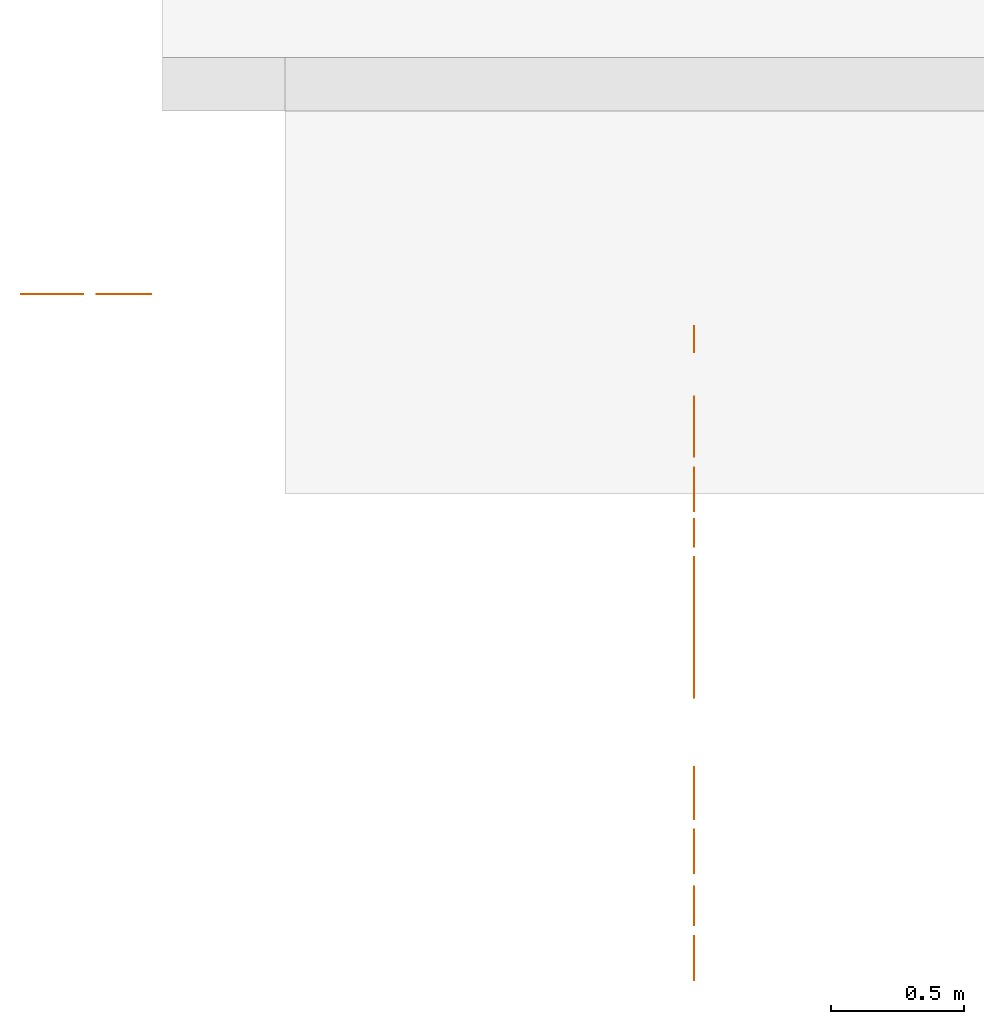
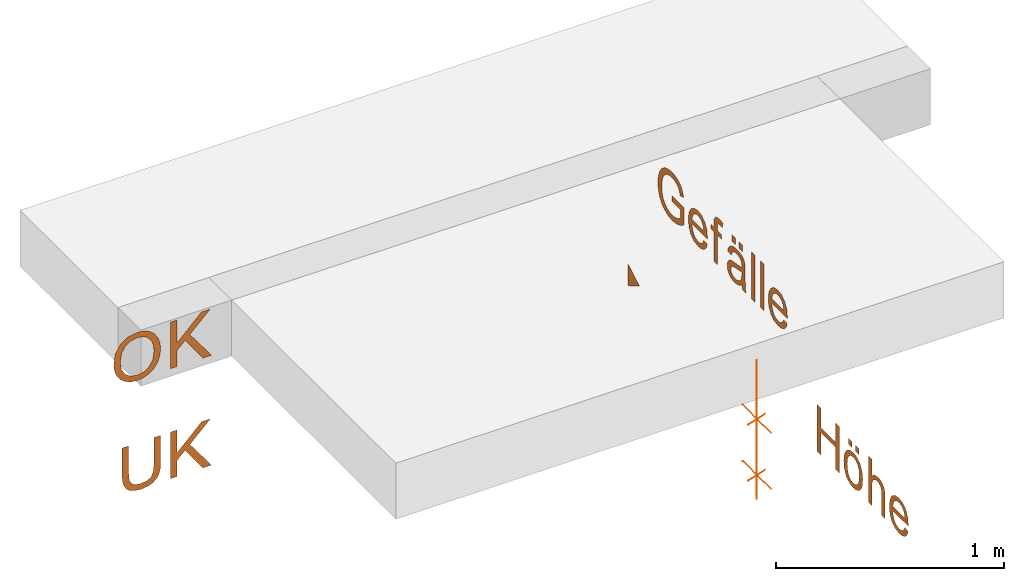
# One storey, part 2 of 2: 6 proxies, 6 elements without a shape of their own.
"""IFC4 building model written with IfcOpenShell, lengths in metres."""

from ifc_helpers import new_model, entity, si_unit, converted_unit, derived_unit, frame, origin, origin_with_axes, place, context, subcontext, project, spatial, open_shell, surface_model, source, transform, mapped, element, aggregate, save


model = new_model("IFC4")

# Units and contexts
model_context = context("Model", 3, precision=1e-05, world=origin())
body_context = subcontext(model_context, "Body", "Model", "MODEL_VIEW")
ifc_project = project(units=[si_unit("LENGTHUNIT", "METRE"), si_unit("AREAUNIT", "SQUARE_METRE"), si_unit("VOLUMEUNIT", "CUBIC_METRE"), si_unit("MASSUNIT", "GRAM", prefix="KILO"), converted_unit("PLANEANGLEUNIT", "DEGREE", entity("IfcPlaneAngleMeasure", 0.0174532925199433), si_unit("PLANEANGLEUNIT", "RADIAN"), dimensions=[0, 0, 0, 0, 0, 0, 0]), derived_unit("THERMALTRANSMITTANCEUNIT", [(si_unit("POWERUNIT", "WATT"), 1), (si_unit("THERMODYNAMICTEMPERATUREUNIT", "KELVIN"), -1), (si_unit("LENGTHUNIT", "METRE"), -2)]), derived_unit("VOLUMETRICFLOWRATEUNIT", [(si_unit("LENGTHUNIT", "METRE"), 3), (converted_unit("TIMEUNIT", "hour", entity("IfcTimeMeasure", 3600.0), si_unit("TIMEUNIT", "SECOND"), dimensions=[0, 0, 1, 0, 0, 0, 0]), -1), (si_unit("LENGTHUNIT", "METRE"), -1)])], contexts=[model_context])

# Site, building, storey
site_placement = place(None, origin())
site = spatial("IfcSite", under=ifc_project, at=site_placement, Name="Liegenschaft", CompositionType="ELEMENT")
building_placement = place(site_placement, origin())
building = spatial("IfcBuilding", under=site, at=building_placement, Name="Gebäude", CompositionType="ELEMENT")
storey_placement = place(building_placement, origin())
storey = spatial("IfcBuildingStorey", under=building, at=storey_placement, Name="Geschoss 01", CompositionType="ELEMENT", Elevation=0.0)

# Assembly, proxy
assembly_1_placement = place(storey_placement, origin())
assembly_1 = element("IfcElementAssembly", 1, at=assembly_1_placement, inside=storey, Name="SpatialDim_Group", PredefinedType="NOTDEFINED")
shared_shape_1 = source(origin_with_axes(), body_context, "Axis", "Curve3D", [
    entity("IfcPolyline", [entity("IfcCartesianPoint", [0.247, 0.05, 0.0]), entity("IfcCartesianPoint", [0.397, 0.2, 0.0])]),
    entity("IfcPolyline", [entity("IfcCartesianPoint", [0.322, 0.0, 0.0]), entity("IfcCartesianPoint", [0.322, 0.25, 0.0])]),
    entity("IfcPolyline", [entity("IfcCartesianPoint", [0.547, 0.05, 0.0]), entity("IfcCartesianPoint", [0.697, 0.2, 0.0])]),
    entity("IfcPolyline", [entity("IfcCartesianPoint", [0.622, 0.0, 0.0]), entity("IfcCartesianPoint", [0.622, 0.25, 0.0])]),
    entity("IfcPolyline", [entity("IfcCartesianPoint", [0.0, 0.125, 0.0]), entity("IfcCartesianPoint", [0.747, 0.125, 0.0])]),
])
proxy_1_placement = place(assembly_1_placement, frame((102.1, -2.465, 0.622), z_axis=(1.0, 0.0, 1.22464679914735e-16), x_axis=(1.22464679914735e-16, 0.0, -1.0)))
proxy_1 = element("IfcBuildingElementProxy", 2, at=proxy_1_placement, Name="macro", context=body_context, shape_type="MappedRepresentation", body=[
    mapped(shared_shape_1, transform((0.0, 0.0, 0.0), x_axis=(1.0, 0.0, 0.0), y_axis=(0.0, 1.0, 0.0), z_axis=(0.0, 0.0, 1.0), scale=1.0)),
])
aggregate(assembly_1, [proxy_1])

assembly_2_placement = place(storey_placement, origin())
assembly_2 = element("IfcElementAssembly", 3, at=assembly_2_placement, inside=storey, Name="SpatialDim_Group", PredefinedType="NOTDEFINED")
shared_shape_2 = source(origin_with_axes(), body_context, "Body", "SurfaceModel", [
    surface_model("IfcShellBasedSurfaceModel", [(0.316, 0.0577350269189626, 0.0), (0.216, 0.115470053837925, 0.0), (0.216, 0.0, 0.0)], [open_shell([[[0, 1, 2]]], orient=[[False]])]),
])
proxy_2_placement = place(assembly_2_placement, frame((102.1, -0.9945, 0.329654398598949), z_axis=(-1.0, -1.22464679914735e-16, 1.22464679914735e-16), x_axis=(1.22464679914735e-16, -1.0, 0.0)))
proxy_2 = element("IfcBuildingElementProxy", 4, at=proxy_2_placement, Name="macro", context=body_context, shape_type="MappedRepresentation", body=[
    mapped(shared_shape_2, transform((0.0, 0.0, 0.0), x_axis=(1.0, 0.0, 0.0), y_axis=(0.0, 1.0, 0.0), z_axis=(0.0, 0.0, 1.0), scale=1.0)),
])
aggregate(assembly_2, [proxy_2])

assembly_3_placement = place(storey_placement, origin())
assembly_3 = element("IfcElementAssembly", 5, at=assembly_3_placement, inside=storey, Name="SpatialDim_Group", PredefinedType="NOTDEFINED")
shared_shape_3 = source(origin_with_axes(), body_context, "Body", "SurfaceModel", [
    surface_model("IfcShellBasedSurfaceModel", [(0.627615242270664, 1.011, 0.0), (0.627615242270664, 0.939, 0.0), (0.580615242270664, 0.939, 0.0), (0.571615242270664, 0.951875, 0.0), (0.562615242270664, 0.97, 0.0), (0.556365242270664, 0.9905, 0.0), (0.554615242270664, 1.011, 0.0), (0.557490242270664, 1.035125, 0.0), (0.565615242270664, 1.057, 0.0), (0.579865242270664, 1.076625, 0.0), (0.598615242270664, 1.091, 0.0), (0.624365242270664, 1.0995, 0.0), (0.654615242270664, 1.102, 0.0), (0.680740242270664, 1.09975, 0.0), (0.704615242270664, 1.093, 0.0), (0.718240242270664, 1.08575, 0.0), (0.729615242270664, 1.077, 0.0), (0.740115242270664, 1.065125, 0.0), (0.747615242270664, 1.051, 0.0), (0.752990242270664, 1.03225, 0.0), (0.754615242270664, 1.012, 0.0), (0.752615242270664, 0.993875, 0.0), (0.747615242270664, 0.978, 0.0), (0.740240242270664, 0.96375, 0.0), (0.730615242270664, 0.954, 0.0), (0.717115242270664, 0.94625, 0.0), (0.700615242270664, 0.94, 0.0), (0.708615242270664, 0.91, 0.0), (0.732615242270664, 0.918, 0.0), (0.750615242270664, 0.929, 0.0), (0.764115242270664, 0.94375, 0.0), (0.774615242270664, 0.963, 0.0), (0.781365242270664, 0.986375, 0.0), (0.783615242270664, 1.012, 0.0), (0.779865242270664, 1.047125, 0.0), (0.768615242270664, 1.077, 0.0), (0.748490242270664, 1.10275, 0.0), (0.721615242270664, 1.121, 0.0), (0.688365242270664, 1.13225, 0.0), (0.653615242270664, 1.136, 0.0), (0.618240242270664, 1.13225, 0.0), (0.586615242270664, 1.121, 0.0), (0.560365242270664, 1.1015, 0.0), (0.541615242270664, 1.076, 0.0), (0.529490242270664, 1.044, 0.0), (0.525615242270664, 1.009, 0.0), (0.528365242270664, 0.982125, 0.0), (0.535615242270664, 0.956, 0.0), (0.547490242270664, 0.93025, 0.0), (0.564615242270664, 0.906, 0.0), (0.656615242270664, 0.906, 0.0), (0.656615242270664, 1.011, 0.0)], [open_shell([[[0, 1, 2, 3, 4, 5, 6, 7, 8, 9, 10, 11, 12, 13, 14, 15, 16, 17, 18, 19, 20, 21, 22, 23, 24, 25, 26, 27, 28, 29, 30, 31, 32, 33, 34, 35, 36, 37, 38, 39, 40, 41, 42, 43, 44, 45, 46, 47, 48, 49, 50, 51]]], orient=[[False]])]),
    surface_model("IfcShellBasedSurfaceModel", [(0.587615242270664, 0.733, 0.0), (0.570990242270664, 0.741875, 0.0), (0.559615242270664, 0.753, 0.0), (0.552865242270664, 0.766375, 0.0), (0.550615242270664, 0.782, 0.0), (0.554865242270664, 0.80375, 0.0), (0.566615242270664, 0.821, 0.0), (0.586240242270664, 0.832875, 0.0), (0.612615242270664, 0.838, 0.0), (0.612615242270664, 0.701, 0.0), (0.617365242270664, 0.701, 0.0), (0.620615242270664, 0.701, 0.0), (0.660365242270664, 0.706875, 0.0), (0.689615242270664, 0.724, 0.0), (0.708490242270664, 0.751, 0.0), (0.714615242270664, 0.784, 0.0), (0.708115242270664, 0.818625, 0.0), (0.689615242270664, 0.845, 0.0), (0.658990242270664, 0.863, 0.0), (0.618615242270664, 0.869, 0.0), (0.578865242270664, 0.863125, 0.0), (0.549615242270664, 0.846, 0.0), (0.531615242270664, 0.81775, 0.0), (0.525615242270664, 0.782, 0.0), (0.529365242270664, 0.752625, 0.0), (0.540615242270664, 0.73, 0.0), (0.559115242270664, 0.712625, 0.0), (0.583615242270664, 0.702, 0.0), (0.657240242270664, 0.73675, 0.0), (0.637615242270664, 0.733, 0.0), (0.637615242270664, 0.837, 0.0), (0.659240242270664, 0.831625, 0.0), (0.675615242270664, 0.821, 0.0), (0.686365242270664, 0.804, 0.0), (0.689615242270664, 0.784, 0.0), (0.685115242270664, 0.76225, 0.0), (0.671615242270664, 0.745, 0.0)], [open_shell([[[0, 1, 2, 3, 4, 5, 6, 7, 8, 9, 10, 11, 12, 13, 14, 15, 16, 17, 18, 19, 20, 21, 22, 23, 24, 25, 26, 27], [28, 29, 30, 31, 32, 33, 34, 35, 36]]], orient=[[False, False]])]),
    surface_model("IfcShellBasedSurfaceModel", [(0.529615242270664, 0.646, 0.0), (0.529615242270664, 0.615, 0.0), (0.686615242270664, 0.615, 0.0), (0.686615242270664, 0.58, 0.0), (0.710615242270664, 0.58, 0.0), (0.710615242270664, 0.615, 0.0), (0.727615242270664, 0.615, 0.0), (0.741240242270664, 0.6135, 0.0), (0.749615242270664, 0.609, 0.0), (0.754115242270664, 0.600875, 0.0), (0.755615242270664, 0.589, 0.0), (0.754990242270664, 0.58, 0.0), (0.753615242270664, 0.571, 0.0), (0.780615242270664, 0.566, 0.0), (0.782865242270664, 0.581625, 0.0), (0.783615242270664, 0.595, 0.0), (0.781615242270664, 0.61325, 0.0), (0.776615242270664, 0.627, 0.0), (0.767365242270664, 0.63675, 0.0), (0.756615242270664, 0.642, 0.0), (0.745365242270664, 0.645125, 0.0), (0.729615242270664, 0.646, 0.0), (0.710615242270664, 0.646, 0.0), (0.710615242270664, 0.672, 0.0), (0.686615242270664, 0.672, 0.0), (0.686615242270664, 0.646, 0.0)], [open_shell([[[0, 1, 2, 3, 4, 5, 6, 7, 8, 9, 10, 11, 12, 13, 14, 15, 16, 17, 18, 19, 20, 21, 22, 23, 24, 25]]], orient=[[False]])]),
    surface_model("IfcShellBasedSurfaceModel", [(0.732615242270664, 0.424, 0.0), (0.732615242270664, 0.392, 0.0), (0.766615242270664, 0.392, 0.0), (0.766615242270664, 0.424, 0.0), (0.732615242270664, 0.486, 0.0), (0.732615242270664, 0.454, 0.0), (0.766615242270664, 0.454, 0.0), (0.766615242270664, 0.486, 0.0), (0.539990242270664, 0.39575, 0.0), (0.529615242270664, 0.392, 0.0), (0.529615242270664, 0.361, 0.0), (0.540240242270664, 0.365625, 0.0), (0.551615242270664, 0.368, 0.0), (0.571115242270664, 0.36975, 0.0), (0.605615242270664, 0.37, 0.0), (0.646615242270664, 0.37, 0.0), (0.663990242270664, 0.370625, 0.0), (0.674615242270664, 0.372, 0.0), (0.686615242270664, 0.37575, 0.0), (0.695615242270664, 0.381, 0.0), (0.703365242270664, 0.390125, 0.0), (0.709615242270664, 0.403, 0.0), (0.713615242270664, 0.420125, 0.0), (0.714615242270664, 0.441, 0.0), (0.713115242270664, 0.4635, 0.0), (0.708615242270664, 0.483, 0.0), (0.700240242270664, 0.49875, 0.0), (0.689615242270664, 0.51, 0.0), (0.675615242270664, 0.518875, 0.0), (0.658615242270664, 0.524, 0.0), (0.654615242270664, 0.493, 0.0), (0.671865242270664, 0.486125, 0.0), (0.681615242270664, 0.477, 0.0), (0.687865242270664, 0.463625, 0.0), (0.689615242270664, 0.445, 0.0), (0.686865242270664, 0.424, 0.0), (0.679615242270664, 0.409, 0.0), (0.668365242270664, 0.40225, 0.0), (0.652615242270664, 0.4, 0.0), (0.649365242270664, 0.4, 0.0), (0.644615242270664, 0.4, 0.0), (0.638740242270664, 0.423125, 0.0), (0.633615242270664, 0.456, 0.0), (0.631240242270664, 0.47175, 0.0), (0.629615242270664, 0.483, 0.0), (0.624990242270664, 0.495625, 0.0), (0.619615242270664, 0.506, 0.0), (0.611365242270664, 0.515125, 0.0), (0.601615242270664, 0.522, 0.0), (0.589615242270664, 0.5265, 0.0), (0.577615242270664, 0.528, 0.0), (0.556490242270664, 0.52375, 0.0), (0.540615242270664, 0.512, 0.0), (0.529365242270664, 0.4915, 0.0), (0.525615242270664, 0.465, 0.0), (0.527115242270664, 0.44725, 0.0), (0.531615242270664, 0.431, 0.0), (0.539865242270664, 0.4145, 0.0), (0.552615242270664, 0.398, 0.0), (0.614615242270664, 0.421, 0.0), (0.620615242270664, 0.4, 0.0), (0.609615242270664, 0.4, 0.0), (0.591115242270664, 0.401375, 0.0), (0.578615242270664, 0.405, 0.0), (0.565865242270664, 0.414, 0.0), (0.557615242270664, 0.426, 0.0), (0.551365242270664, 0.44125, 0.0), (0.549615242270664, 0.458, 0.0), (0.551740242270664, 0.47425, 0.0), (0.557615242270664, 0.486, 0.0), (0.567365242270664, 0.49275, 0.0), (0.578615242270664, 0.495, 0.0), (0.586365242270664, 0.49375, 0.0), (0.592615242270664, 0.491, 0.0), (0.598740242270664, 0.484875, 0.0), (0.602615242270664, 0.478, 0.0), (0.606365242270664, 0.46675, 0.0), (0.608615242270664, 0.451, 0.0)], [open_shell([[[0, 1, 2, 3]], [[4, 5, 6, 7]], [[8, 9, 10, 11, 12, 13, 14, 15, 16, 17, 18, 19, 20, 21, 22, 23, 24, 25, 26, 27, 28, 29, 30, 31, 32, 33, 34, 35, 36, 37, 38, 39, 40, 41, 42, 43, 44, 45, 46, 47, 48, 49, 50, 51, 52, 53, 54, 55, 56, 57, 58], [59, 60, 61, 62, 63, 64, 65, 66, 67, 68, 69, 70, 71, 72, 73, 74, 75, 76, 77]]], orient=[[False], [False], [False, False]])]),
    surface_model("IfcShellBasedSurfaceModel", [(0.529615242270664, 0.314, 0.0), (0.529615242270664, 0.283, 0.0), (0.779615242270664, 0.283, 0.0), (0.779615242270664, 0.314, 0.0)], [open_shell([[[0, 1, 2, 3]]], orient=[[False]])]),
    surface_model("IfcShellBasedSurfaceModel", [(0.529615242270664, 0.236, 0.0), (0.529615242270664, 0.205, 0.0), (0.779615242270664, 0.205, 0.0), (0.779615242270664, 0.236, 0.0)], [open_shell([[[0, 1, 2, 3]]], orient=[[False]])]),
    surface_model("IfcShellBasedSurfaceModel", [(0.587615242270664, 0.032, 0.0), (0.570990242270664, 0.040875, 0.0), (0.559615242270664, 0.052, 0.0), (0.552865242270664, 0.065375, 0.0), (0.550615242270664, 0.081, 0.0), (0.554865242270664, 0.10275, 0.0), (0.566615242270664, 0.12, 0.0), (0.586240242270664, 0.131875, 0.0), (0.612615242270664, 0.137, 0.0), (0.612615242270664, 0.0, 0.0), (0.617365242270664, 0.0, 0.0), (0.620615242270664, 0.0, 0.0), (0.660365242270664, 0.005875, 0.0), (0.689615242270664, 0.023, 0.0), (0.708490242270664, 0.05, 0.0), (0.714615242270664, 0.083, 0.0), (0.708115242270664, 0.117625, 0.0), (0.689615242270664, 0.144, 0.0), (0.658990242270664, 0.162, 0.0), (0.618615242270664, 0.168, 0.0), (0.578865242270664, 0.162125, 0.0), (0.549615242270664, 0.145, 0.0), (0.531615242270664, 0.11675, 0.0), (0.525615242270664, 0.081, 0.0), (0.529365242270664, 0.051625, 0.0), (0.540615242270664, 0.029, 0.0), (0.559115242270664, 0.011625, 0.0), (0.583615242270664, 0.001, 0.0), (0.657240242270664, 0.03575, 0.0), (0.637615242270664, 0.032, 0.0), (0.637615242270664, 0.136, 0.0), (0.659240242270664, 0.130625, 0.0), (0.675615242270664, 0.12, 0.0), (0.686365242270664, 0.103, 0.0), (0.689615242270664, 0.083, 0.0), (0.685115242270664, 0.06125, 0.0), (0.671615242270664, 0.044, 0.0)], [open_shell([[[0, 1, 2, 3, 4, 5, 6, 7, 8, 9, 10, 11, 12, 13, 14, 15, 16, 17, 18, 19, 20, 21, 22, 23, 24, 25, 26, 27], [28, 29, 30, 31, 32, 33, 34, 35, 36]]], orient=[[False, False]])]),
])
proxy_3_placement = place(assembly_3_placement, frame((102.1, -2.6075, 0.387389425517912), z_axis=(-1.0, 0.0, 1.22464679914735e-16), x_axis=(1.22464679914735e-16, 0.0, 1.0)))
proxy_3 = element("IfcBuildingElementProxy", 6, at=proxy_3_placement, Name="macro", context=body_context, shape_type="MappedRepresentation", body=[
    mapped(shared_shape_3, transform((0.0, 0.0, 0.0), x_axis=(1.0, 0.0, 0.0), y_axis=(0.0, 1.0, 0.0), z_axis=(0.0, 0.0, 1.0), scale=1.0)),
])
aggregate(assembly_3, [proxy_3])

assembly_4_placement = place(storey_placement, origin())
assembly_4 = element("IfcElementAssembly", 7, at=assembly_4_placement, inside=storey, Name="SpatialDim_Group", PredefinedType="NOTDEFINED")
shared_shape_4 = source(origin_with_axes(), body_context, "Body", "SurfaceModel", [
    surface_model("IfcShellBasedSurfaceModel", [(0.388425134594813, 0.992375, 0.0), (0.357675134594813, 0.982, 0.0), (0.331300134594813, 0.964, 0.0), (0.311675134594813, 0.94, 0.0), (0.298675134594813, 0.91, 0.0), (0.294675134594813, 0.877, 0.0), (0.298425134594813, 0.8455, 0.0), (0.309675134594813, 0.817, 0.0), (0.329300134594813, 0.791625, 0.0), (0.355675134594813, 0.773, 0.0), (0.387800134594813, 0.76175, 0.0), (0.423675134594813, 0.758, 0.0), (0.458925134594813, 0.76175, 0.0), (0.489675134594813, 0.773, 0.0), (0.516550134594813, 0.791, 0.0), (0.536675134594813, 0.815, 0.0), (0.548800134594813, 0.844125, 0.0), (0.552675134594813, 0.877, 0.0), (0.543800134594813, 0.924875, 0.0), (0.517675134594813, 0.963, 0.0), (0.475550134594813, 0.98775, 0.0), (0.420675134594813, 0.996, 0.0), (0.380550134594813, 0.956, 0.0), (0.419675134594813, 0.962, 0.0), (0.467925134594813, 0.9555, 0.0), (0.499675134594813, 0.937, 0.0), (0.517675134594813, 0.90925, 0.0), (0.523675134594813, 0.877, 0.0), (0.520675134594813, 0.853, 0.0), (0.511675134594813, 0.832, 0.0), (0.496050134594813, 0.81475, 0.0), (0.476675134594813, 0.802, 0.0), (0.451675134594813, 0.794375, 0.0), (0.423675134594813, 0.792, 0.0), (0.381050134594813, 0.798, 0.0), (0.349675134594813, 0.816, 0.0), (0.329925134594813, 0.8435, 0.0), (0.323675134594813, 0.877, 0.0), (0.330300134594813, 0.910875, 0.0), (0.349675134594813, 0.938, 0.0)], [open_shell([[[0, 1, 2, 3, 4, 5, 6, 7, 8, 9, 10, 11, 12, 13, 14, 15, 16, 17, 18, 19, 20, 21], [22, 23, 24, 25, 26, 27, 28, 29, 30, 31, 32, 33, 34, 35, 36, 37, 38, 39]]], orient=[[False, False]])]),
    surface_model("IfcShellBasedSurfaceModel", [(0.298675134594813, 0.707, 0.0), (0.298675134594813, 0.674, 0.0), (0.385675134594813, 0.674, 0.0), (0.424675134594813, 0.634, 0.0), (0.298675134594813, 0.544, 0.0), (0.298675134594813, 0.5, 0.0), (0.447675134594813, 0.61, 0.0), (0.548675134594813, 0.506, 0.0), (0.548675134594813, 0.551, 0.0), (0.426675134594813, 0.674, 0.0), (0.548675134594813, 0.674, 0.0), (0.548675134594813, 0.707, 0.0)], [open_shell([[[0, 1, 2, 3, 4, 5, 6, 7, 8, 9, 10, 11]]], orient=[[False]])]),
])
proxy_4_placement = place(assembly_4_placement, frame((100.56, -1.09, 0.3), z_axis=(-1.22464679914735e-16, -1.0, 1.49975978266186e-32), x_axis=(1.22464679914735e-16, 0.0, 1.0)))
proxy_4 = element("IfcBuildingElementProxy", 8, at=proxy_4_placement, Name="macro", context=body_context, shape_type="MappedRepresentation", body=[
    mapped(shared_shape_4, transform((0.0, 0.0, 0.0), x_axis=(1.0, 0.0, 0.0), y_axis=(0.0, 1.0, 0.0), z_axis=(0.0, 0.0, 1.0), scale=1.0)),
])
aggregate(assembly_4, [proxy_4])

assembly_5_placement = place(storey_placement, origin())
assembly_5 = element("IfcElementAssembly", 9, at=assembly_5_placement, inside=storey, Name="SpatialDim_Group", PredefinedType="NOTDEFINED")
shared_shape_5 = source(origin_with_axes(), body_context, "Body", "SurfaceModel", [
    surface_model("IfcShellBasedSurfaceModel", [(0.26, 0.792, 0.0), (0.117, 0.792, 0.0), (0.077125, 0.79575, 0.0), (0.053, 0.807, 0.0), (0.040875, 0.82725, 0.0), (0.037, 0.858, 0.0), (0.039125, 0.8775, 0.0), (0.045, 0.894, 0.0), (0.0555, 0.90625, 0.0), (0.069, 0.914, 0.0), (0.0885, 0.9185, 0.0), (0.117, 0.92, 0.0), (0.26, 0.92, 0.0), (0.26, 0.954, 0.0), (0.116, 0.954, 0.0), (0.08, 0.95125, 0.0), (0.053, 0.944, 0.0), (0.0325, 0.9315, 0.0), (0.018, 0.913, 0.0), (0.00899999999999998, 0.886625, 0.0), (0.00599999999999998, 0.855, 0.0), (0.00962499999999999, 0.82225, 0.0), (0.02, 0.797, 0.0), (0.0365, 0.778125, 0.0), (0.056, 0.766, 0.0), (0.08225, 0.75975, 0.0), (0.116, 0.758, 0.0), (0.26, 0.758, 0.0)], [open_shell([[[0, 1, 2, 3, 4, 5, 6, 7, 8, 9, 10, 11, 12, 13, 14, 15, 16, 17, 18, 19, 20, 21, 22, 23, 24, 25, 26, 27]]], orient=[[False]])]),
    surface_model("IfcShellBasedSurfaceModel", [(0.01, 0.707, 0.0), (0.01, 0.674, 0.0), (0.097, 0.674, 0.0), (0.136, 0.634, 0.0), (0.01, 0.544, 0.0), (0.01, 0.5, 0.0), (0.159, 0.61, 0.0), (0.26, 0.506, 0.0), (0.26, 0.551, 0.0), (0.138, 0.674, 0.0), (0.26, 0.674, 0.0), (0.26, 0.707, 0.0)], [open_shell([[[0, 1, 2, 3, 4, 5, 6, 7, 8, 9, 10, 11]]], orient=[[False]])]),
])
proxy_5_placement = place(assembly_5_placement, frame((100.56, -1.09, 0.0), z_axis=(-1.22464679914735e-16, -1.0, 1.49975978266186e-32), x_axis=(1.22464679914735e-16, 0.0, 1.0)))
proxy_5 = element("IfcBuildingElementProxy", 10, at=proxy_5_placement, Name="macro", context=body_context, shape_type="MappedRepresentation", body=[
    mapped(shared_shape_5, transform((0.0, 0.0, 0.0), x_axis=(1.0, 0.0, 0.0), y_axis=(0.0, 1.0, 0.0), z_axis=(0.0, 0.0, 1.0), scale=1.0)),
])
aggregate(assembly_5, [proxy_5])

assembly_6_placement = place(storey_placement, origin())
assembly_6 = element("IfcElementAssembly", 11, at=assembly_6_placement, inside=storey, Name="SpatialDim_Group", PredefinedType="NOTDEFINED")
shared_shape_6 = source(origin_with_axes(), body_context, "Body", "SurfaceModel", [
    surface_model("IfcShellBasedSurfaceModel", [(0.298675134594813, 0.801, 0.0), (0.298675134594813, 0.768, 0.0), (0.416675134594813, 0.768, 0.0), (0.416675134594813, 0.638, 0.0), (0.298675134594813, 0.638, 0.0), (0.298675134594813, 0.605, 0.0), (0.548675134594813, 0.605, 0.0), (0.548675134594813, 0.638, 0.0), (0.445675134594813, 0.638, 0.0), (0.445675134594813, 0.768, 0.0), (0.548675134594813, 0.768, 0.0), (0.548675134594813, 0.801, 0.0)], [open_shell([[[0, 1, 2, 3, 4, 5, 6, 7, 8, 9, 10, 11]]], orient=[[False]])]),
    surface_model("IfcShellBasedSurfaceModel", [(0.501675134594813, 0.465, 0.0), (0.501675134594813, 0.433, 0.0), (0.535675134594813, 0.433, 0.0), (0.535675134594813, 0.465, 0.0), (0.501675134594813, 0.527, 0.0), (0.501675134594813, 0.495, 0.0), (0.535675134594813, 0.495, 0.0), (0.535675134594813, 0.527, 0.0), (0.348550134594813, 0.562125, 0.0), (0.318675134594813, 0.545, 0.0), (0.300675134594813, 0.517875, 0.0), (0.294675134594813, 0.484, 0.0), (0.297550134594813, 0.461, 0.0), (0.305675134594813, 0.441, 0.0), (0.319300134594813, 0.422875, 0.0), (0.336675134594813, 0.41, 0.0), (0.360800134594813, 0.402375, 0.0), (0.391675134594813, 0.4, 0.0), (0.430550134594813, 0.405875, 0.0), (0.459675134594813, 0.423, 0.0), (0.477675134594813, 0.4505, 0.0), (0.483675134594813, 0.484, 0.0), (0.478550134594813, 0.514625, 0.0), (0.463675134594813, 0.54, 0.0), (0.433050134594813, 0.561125, 0.0), (0.389675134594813, 0.568, 0.0), (0.359050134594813, 0.53325, 0.0), (0.389675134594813, 0.537, 0.0), (0.419800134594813, 0.53325, 0.0), (0.441675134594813, 0.522, 0.0), (0.454675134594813, 0.504875, 0.0), (0.458675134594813, 0.484, 0.0), (0.454300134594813, 0.46275, 0.0), (0.441675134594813, 0.446, 0.0), (0.419925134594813, 0.43475, 0.0), (0.390675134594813, 0.431, 0.0), (0.359175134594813, 0.43475, 0.0), (0.336675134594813, 0.446, 0.0), (0.323675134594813, 0.463125, 0.0), (0.319675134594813, 0.484, 0.0), (0.324050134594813, 0.50525, 0.0), (0.336675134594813, 0.522, 0.0)], [open_shell([[[0, 1, 2, 3]], [[4, 5, 6, 7]], [[8, 9, 10, 11, 12, 13, 14, 15, 16, 17, 18, 19, 20, 21, 22, 23, 24, 25], [26, 27, 28, 29, 30, 31, 32, 33, 34, 35, 36, 37, 38, 39, 40, 41]]], orient=[[False], [False], [False, False]])]),
    surface_model("IfcShellBasedSurfaceModel", [(0.298675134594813, 0.351, 0.0), (0.298675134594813, 0.32, 0.0), (0.397675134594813, 0.32, 0.0), (0.417300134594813, 0.318625, 0.0), (0.431675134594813, 0.315, 0.0), (0.442675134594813, 0.308, 0.0), (0.450675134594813, 0.298, 0.0), (0.456050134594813, 0.285875, 0.0), (0.457675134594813, 0.273, 0.0), (0.454925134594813, 0.25725, 0.0), (0.447675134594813, 0.246, 0.0), (0.433300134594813, 0.238375, 0.0), (0.413675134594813, 0.236, 0.0), (0.298675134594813, 0.236, 0.0), (0.298675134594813, 0.205, 0.0), (0.413675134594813, 0.205, 0.0), (0.437050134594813, 0.2065, 0.0), (0.453675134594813, 0.211, 0.0), (0.466550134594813, 0.22, 0.0), (0.475675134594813, 0.232, 0.0), (0.481925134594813, 0.248375, 0.0), (0.483675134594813, 0.267, 0.0), (0.477675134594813, 0.2965, 0.0), (0.459675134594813, 0.32, 0.0), (0.548675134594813, 0.32, 0.0), (0.548675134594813, 0.351, 0.0)], [open_shell([[[0, 1, 2, 3, 4, 5, 6, 7, 8, 9, 10, 11, 12, 13, 14, 15, 16, 17, 18, 19, 20, 21, 22, 23, 24, 25]]], orient=[[False]])]),
    surface_model("IfcShellBasedSurfaceModel", [(0.356675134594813, 0.032, 0.0), (0.340050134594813, 0.040875, 0.0), (0.328675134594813, 0.052, 0.0), (0.321925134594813, 0.065375, 0.0), (0.319675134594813, 0.081, 0.0), (0.323925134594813, 0.10275, 0.0), (0.335675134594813, 0.12, 0.0), (0.355300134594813, 0.131875, 0.0), (0.381675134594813, 0.137, 0.0), (0.381675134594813, 0.0, 0.0), (0.386425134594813, 0.0, 0.0), (0.389675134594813, 0.0, 0.0), (0.429425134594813, 0.005875, 0.0), (0.458675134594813, 0.023, 0.0), (0.477550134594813, 0.05, 0.0), (0.483675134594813, 0.083, 0.0), (0.477175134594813, 0.117625, 0.0), (0.458675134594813, 0.144, 0.0), (0.428050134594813, 0.162, 0.0), (0.387675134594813, 0.168, 0.0), (0.347925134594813, 0.162125, 0.0), (0.318675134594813, 0.145, 0.0), (0.300675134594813, 0.11675, 0.0), (0.294675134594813, 0.081, 0.0), (0.298425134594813, 0.051625, 0.0), (0.309675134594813, 0.029, 0.0), (0.328175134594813, 0.011625, 0.0), (0.352675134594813, 0.001, 0.0), (0.426300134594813, 0.03575, 0.0), (0.406675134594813, 0.032, 0.0), (0.406675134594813, 0.136, 0.0), (0.428300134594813, 0.130625, 0.0), (0.444675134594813, 0.12, 0.0), (0.455425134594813, 0.103, 0.0), (0.458675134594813, 0.083, 0.0), (0.454175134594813, 0.06125, 0.0), (0.440675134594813, 0.044, 0.0)], [open_shell([[[0, 1, 2, 3, 4, 5, 6, 7, 8, 9, 10, 11, 12, 13, 14, 15, 16, 17, 18, 19, 20, 21, 22, 23, 24, 25, 26, 27], [28, 29, 30, 31, 32, 33, 34, 35, 36]]], orient=[[False, False]])]),
])
proxy_6_placement = place(assembly_6_placement, frame((102.1, -3.669, 0.15), z_axis=(-1.0, 0.0, 1.22464679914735e-16), x_axis=(1.22464679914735e-16, 0.0, 1.0)))
proxy_6 = element("IfcBuildingElementProxy", 12, at=proxy_6_placement, Name="macro", context=body_context, shape_type="MappedRepresentation", body=[
    mapped(shared_shape_6, transform((0.0, 0.0, 0.0), x_axis=(1.0, 0.0, 0.0), y_axis=(0.0, 1.0, 0.0), z_axis=(0.0, 0.0, 1.0), scale=1.0)),
])
aggregate(assembly_6, [proxy_6])

save(model, "model.ifc")
